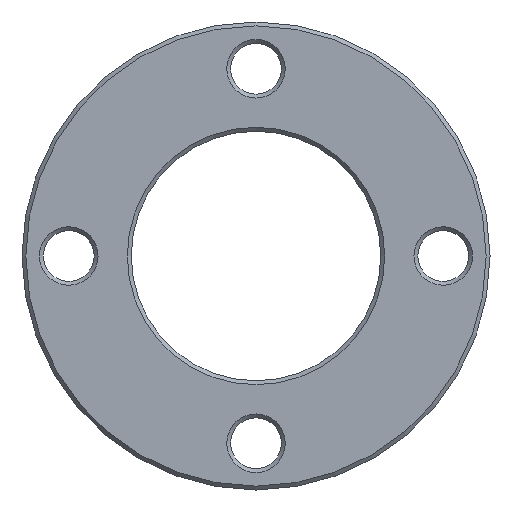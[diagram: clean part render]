
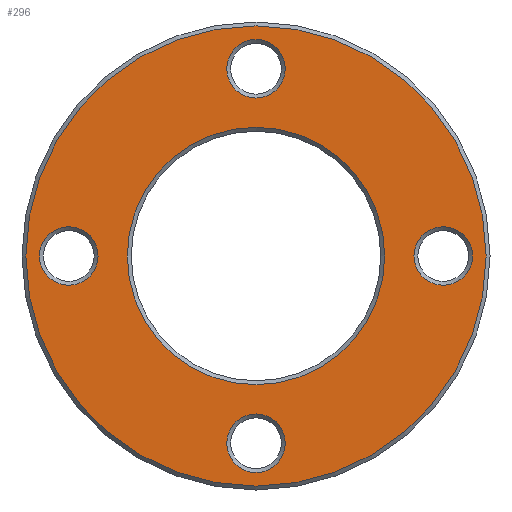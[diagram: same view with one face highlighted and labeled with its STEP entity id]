
A CAD part, front view. The second image highlights one B-rep face of the part: STEP entity #296.
In plain terms, the highlighted planar face has unit normal (0, -1, 0).
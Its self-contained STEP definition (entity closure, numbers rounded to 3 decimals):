
#29=PLANE('',#333);
#47=FACE_BOUND('',#109,.T.);
#48=FACE_BOUND('',#110,.T.);
#49=FACE_BOUND('',#111,.T.);
#50=FACE_BOUND('',#112,.T.);
#51=FACE_BOUND('',#113,.T.);
#75=FACE_OUTER_BOUND('',#108,.T.);
#108=EDGE_LOOP('',(#248));
#109=EDGE_LOOP('',(#249));
#110=EDGE_LOOP('',(#250));
#111=EDGE_LOOP('',(#251));
#112=EDGE_LOOP('',(#252));
#113=EDGE_LOOP('',(#253));
#159=CIRCLE('',#330,16.5);
#161=CIRCLE('',#334,29.5);
#162=CIRCLE('',#335,3.75);
#163=CIRCLE('',#336,3.75);
#164=CIRCLE('',#337,3.75);
#165=CIRCLE('',#338,3.75);
#187=VERTEX_POINT('',#498);
#189=VERTEX_POINT('',#504);
#190=VERTEX_POINT('',#506);
#191=VERTEX_POINT('',#508);
#192=VERTEX_POINT('',#510);
#193=VERTEX_POINT('',#512);
#215=EDGE_CURVE('',#187,#187,#159,.T.);
#217=EDGE_CURVE('',#189,#189,#161,.T.);
#218=EDGE_CURVE('',#190,#190,#162,.T.);
#219=EDGE_CURVE('',#191,#191,#163,.T.);
#220=EDGE_CURVE('',#192,#192,#164,.T.);
#221=EDGE_CURVE('',#193,#193,#165,.T.);
#248=ORIENTED_EDGE('',*,*,#217,.F.);
#249=ORIENTED_EDGE('',*,*,#218,.F.);
#250=ORIENTED_EDGE('',*,*,#219,.F.);
#251=ORIENTED_EDGE('',*,*,#220,.F.);
#252=ORIENTED_EDGE('',*,*,#221,.F.);
#253=ORIENTED_EDGE('',*,*,#215,.F.);
#296=ADVANCED_FACE('',(#75,#47,#48,#49,#50,#51),#29,.T.);
#330=AXIS2_PLACEMENT_3D('',#499,#397,#398);
#333=AXIS2_PLACEMENT_3D('',#503,#403,#404);
#334=AXIS2_PLACEMENT_3D('',#505,#405,#406);
#335=AXIS2_PLACEMENT_3D('',#507,#407,#408);
#336=AXIS2_PLACEMENT_3D('',#509,#409,#410);
#337=AXIS2_PLACEMENT_3D('',#511,#411,#412);
#338=AXIS2_PLACEMENT_3D('',#513,#413,#414);
#397=DIRECTION('center_axis',(0.,-1.,0.));
#398=DIRECTION('ref_axis',(0.,0.,-1.));
#403=DIRECTION('center_axis',(0.,-1.,0.));
#404=DIRECTION('ref_axis',(0.,0.,-1.));
#405=DIRECTION('center_axis',(0.,1.,0.));
#406=DIRECTION('ref_axis',(0.,0.,-1.));
#407=DIRECTION('center_axis',(0.,-1.,0.));
#408=DIRECTION('ref_axis',(1.,0.,0.));
#409=DIRECTION('center_axis',(0.,-1.,0.));
#410=DIRECTION('ref_axis',(-1.,0.,0.));
#411=DIRECTION('center_axis',(0.,-1.,0.));
#412=DIRECTION('ref_axis',(0.,0.,1.));
#413=DIRECTION('center_axis',(0.,-1.,0.));
#414=DIRECTION('ref_axis',(0.,0.,-1.));
#498=CARTESIAN_POINT('',(0.,0.,16.5));
#499=CARTESIAN_POINT('Origin',(0.,0.,0.));
#503=CARTESIAN_POINT('Origin',(0.,0.,24.));
#504=CARTESIAN_POINT('',(0.,0.,29.5));
#505=CARTESIAN_POINT('Origin',(0.,0.,0.));
#506=CARTESIAN_POINT('',(-3.75,0.,-24.));
#507=CARTESIAN_POINT('Origin',(0.,0.,-24.));
#508=CARTESIAN_POINT('',(3.75,0.,24.));
#509=CARTESIAN_POINT('Origin',(0.,0.,24.));
#510=CARTESIAN_POINT('',(24.,0.,-3.75));
#511=CARTESIAN_POINT('Origin',(24.,0.,0.));
#512=CARTESIAN_POINT('',(-24.,0.,3.75));
#513=CARTESIAN_POINT('Origin',(-24.,0.,0.));
